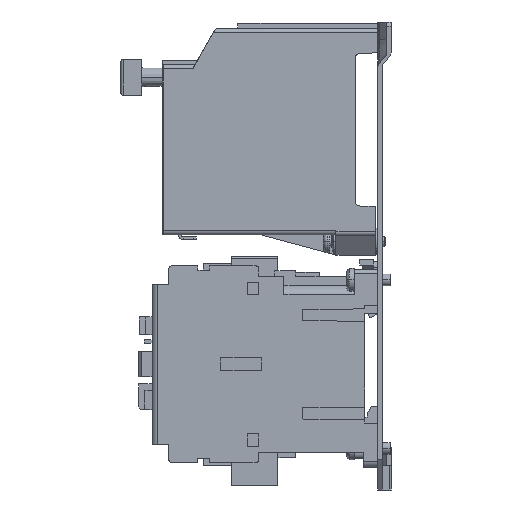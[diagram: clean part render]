
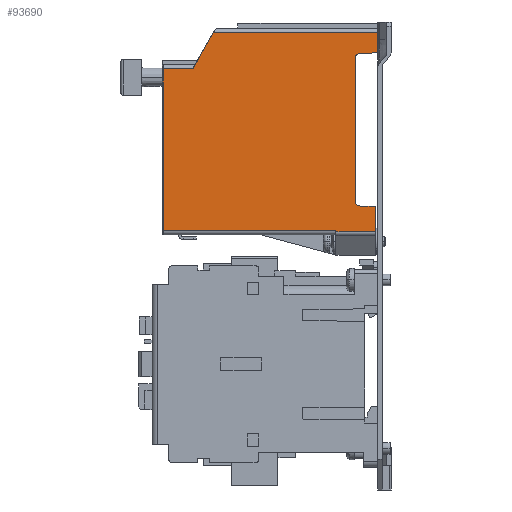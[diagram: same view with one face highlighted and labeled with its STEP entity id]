
A CAD part, left-side view. The second image highlights one B-rep face of the part: STEP entity #93690.
In plain terms, the highlighted planar face has unit normal (-1, 0, 0).
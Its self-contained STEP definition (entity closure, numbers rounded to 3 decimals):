
#5914=DIRECTION('',(0.,0.,-1.));
#5915=VECTOR('',#5914,7.168);
#5916=CARTESIAN_POINT('',(-20.015,1.651,79.507));
#5917=LINE('',#5916,#5915);
#18492=DIRECTION('',(0.,-1.,0.));
#18493=VECTOR('',#18492,58.512);
#18494=CARTESIAN_POINT('',(-20.015,60.163,
79.507));
#18495=LINE('',#18494,#18493);
#18505=CARTESIAN_POINT('',(-20.015,60.163,
79.507));
#18517=DIRECTION('',(0.,-0.999,0.035));
#18518=VECTOR('',#18517,6.462);
#18519=CARTESIAN_POINT('',(-20.015,8.109,
72.114));
#18520=LINE('',#18519,#18518);
#18524=CARTESIAN_POINT('',(-20.015,8.056,70.595));
#18525=DIRECTION('',(1.,0.,0.));
#18526=DIRECTION('',(0.,1.,0.));
#18527=AXIS2_PLACEMENT_3D('',#18524,#18525,#18526);
#18532=DIRECTION('',(0.,0.,1.));
#18533=VECTOR('',#18532,51.269);
#18534=CARTESIAN_POINT('',(-20.015,9.576,19.325));
#18535=LINE('',#18534,#18533);
#18539=CARTESIAN_POINT('',(-20.015,8.052,19.325));
#18540=DIRECTION('',(1.,0.,0.));
#18541=DIRECTION('',(0.,0.035,-0.999));
#18542=AXIS2_PLACEMENT_3D('',#18539,#18540,#18541);
#18547=DIRECTION('',(0.,0.999,0.035));
#18548=VECTOR('',#18547,5.67);
#18549=CARTESIAN_POINT('',(-20.015,2.438,17.604));
#18550=LINE('',#18549,#18548);
#18554=DIRECTION('',(0.,0.,1.));
#18555=VECTOR('',#18554,9.034);
#18556=CARTESIAN_POINT('',(-20.015,2.438,8.57));
#18557=LINE('',#18556,#18555);
#18561=DIRECTION('',(0.,0.,1.));
#18562=VECTOR('',#18561,0.447);
#18563=CARTESIAN_POINT('',(-20.015,16.485,8.57));
#18564=LINE('',#18563,#18562);
#18568=DIRECTION('',(0.,0.495,-0.869));
#18569=VECTOR('',#18568,14.857);
#18570=CARTESIAN_POINT('',(-20.015,60.163,
79.507));
#18571=LINE('',#18570,#18569);
#33021=DIRECTION('',(0.,-1.,0.));
#33022=VECTOR('',#33021,10.384);
#33023=CARTESIAN_POINT('',(-20.015,77.902,66.599));
#33024=LINE('',#33023,#33022);
#33035=CARTESIAN_POINT('',(-20.015,67.518,
66.599));
#33078=DIRECTION('',(0.,0.,1.));
#33079=VECTOR('',#33078,57.582);
#33080=CARTESIAN_POINT('',(-20.015,77.902,9.017));
#33081=LINE('',#33080,#33079);
#33124=DIRECTION('',(0.,1.,0.));
#33125=VECTOR('',#33124,61.417);
#33126=CARTESIAN_POINT('',(-20.015,16.485,9.017));
#33127=LINE('',#33126,#33125);
#35030=DIRECTION('',(0.,1.,0.));
#35031=VECTOR('',#35030,14.046);
#35032=CARTESIAN_POINT('',(-20.015,2.438,8.57));
#35033=LINE('',#35032,#35031);
#72275=CARTESIAN_POINT('',(-20.015,9.576,70.595));
#72276=CARTESIAN_POINT('',(-20.015,8.109,
72.114));
#72277=VERTEX_POINT('',#72275);
#72278=VERTEX_POINT('',#72276);
#72279=CARTESIAN_POINT('',(-20.015,8.105,
17.802));
#72280=CARTESIAN_POINT('',(-20.015,9.576,19.325));
#72281=VERTEX_POINT('',#72279);
#72282=VERTEX_POINT('',#72280);
#72341=CARTESIAN_POINT('',(-20.015,2.438,17.604));
#72342=VERTEX_POINT('',#72341);
#72369=CARTESIAN_POINT('',(-20.015,16.485,9.017));
#72371=VERTEX_POINT('',#72369);
#72373=VERTEX_POINT('',#33035);
#72385=CARTESIAN_POINT('',(-20.015,2.438,8.57));
#72386=CARTESIAN_POINT('',(-20.015,16.485,8.57));
#72387=VERTEX_POINT('',#72385);
#72388=VERTEX_POINT('',#72386);
#72477=CARTESIAN_POINT('',(-20.015,77.902,66.599));
#72478=VERTEX_POINT('',#72477);
#72481=CARTESIAN_POINT('',(-20.015,77.902,9.017));
#72482=VERTEX_POINT('',#72481);
#73301=VERTEX_POINT('',#18505);
#73308=CARTESIAN_POINT('',(-20.015,1.651,79.507));
#73309=CARTESIAN_POINT('',(-20.015,1.651,72.339));
#73310=VERTEX_POINT('',#73308);
#73311=VERTEX_POINT('',#73309);
#93658=CARTESIAN_POINT('',(-20.015,16.485,54.864));
#93659=DIRECTION('',(1.,0.,0.));
#93660=DIRECTION('',(0.,0.,-1.));
#93661=AXIS2_PLACEMENT_3D('',#93658,#93659,#93660);
#93662=PLANE('',#93661);
#93663=ORIENTED_EDGE('',*,*,#82578,.T.);
#93665=ORIENTED_EDGE('',*,*,#93664,.F.);
#93667=ORIENTED_EDGE('',*,*,#93666,.F.);
#93669=ORIENTED_EDGE('',*,*,#93668,.F.);
#93671=ORIENTED_EDGE('',*,*,#93670,.F.);
#93673=ORIENTED_EDGE('',*,*,#93672,.F.);
#93674=ORIENTED_EDGE('',*,*,#82302,.F.);
#93676=ORIENTED_EDGE('',*,*,#93675,.T.);
#93678=ORIENTED_EDGE('',*,*,#93677,.T.);
#93680=ORIENTED_EDGE('',*,*,#93679,.T.);
#93682=ORIENTED_EDGE('',*,*,#93681,.T.);
#93684=ORIENTED_EDGE('',*,*,#93683,.T.);
#93686=ORIENTED_EDGE('',*,*,#93685,.F.);
#93687=ORIENTED_EDGE('',*,*,#93641,.T.);
#93688=EDGE_LOOP('',(#93663,#93665,#93667,#93669,#93671,#93673,#93674,#93676,
#93678,#93680,#93682,#93684,#93686,#93687));
#93689=FACE_OUTER_BOUND('',#93688,.F.);
#18528=CIRCLE('',#18527,1.52);
#18543=CIRCLE('',#18542,1.524);
#82302=EDGE_CURVE('',#72387,#72342,#18557,.T.);
#82578=EDGE_CURVE('',#73310,#73311,#5917,.T.);
#93641=EDGE_CURVE('',#73301,#73310,#18495,.T.);
#93664=EDGE_CURVE('',#72278,#73311,#18520,.T.);
#93666=EDGE_CURVE('',#72277,#72278,#18528,.T.);
#93668=EDGE_CURVE('',#72282,#72277,#18535,.T.);
#93670=EDGE_CURVE('',#72281,#72282,#18543,.T.);
#93672=EDGE_CURVE('',#72342,#72281,#18550,.T.);
#93675=EDGE_CURVE('',#72387,#72388,#35033,.T.);
#93677=EDGE_CURVE('',#72388,#72371,#18564,.T.);
#93679=EDGE_CURVE('',#72371,#72482,#33127,.T.);
#93681=EDGE_CURVE('',#72482,#72478,#33081,.T.);
#93683=EDGE_CURVE('',#72478,#72373,#33024,.T.);
#93685=EDGE_CURVE('',#73301,#72373,#18571,.T.);
#93690=ADVANCED_FACE('',(#93689),#93662,.F.);
